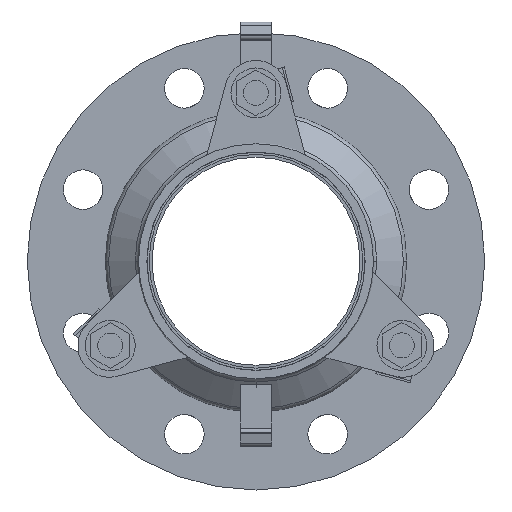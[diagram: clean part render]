
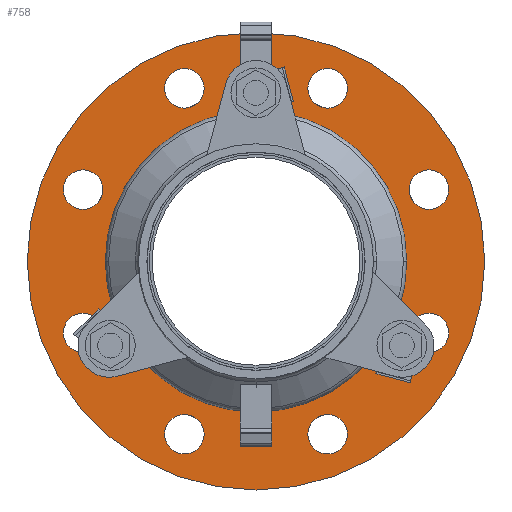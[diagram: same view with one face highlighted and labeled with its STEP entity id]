
A CAD part, left-side view. The second image highlights one B-rep face of the part: STEP entity #758.
In plain terms, the highlighted planar face has unit normal (-1, 0, 0).
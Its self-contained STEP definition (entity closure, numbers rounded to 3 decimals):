
#758=ADVANCED_FACE('',(#1582,#1583,#1584,#1585,#1586,#1587,#1588,#1589,#1590,#1591),#1592,.T.);
#1582=FACE_BOUND('',#2751,.T.);
#1583=FACE_BOUND('',#2752,.T.);
#1584=FACE_BOUND('',#2753,.T.);
#1585=FACE_BOUND('',#2754,.T.);
#1586=FACE_BOUND('',#2755,.T.);
#1587=FACE_BOUND('',#2756,.T.);
#1588=FACE_BOUND('',#2757,.T.);
#1589=FACE_BOUND('',#2758,.T.);
#1590=FACE_BOUND('',#2759,.T.);
#1591=FACE_OUTER_BOUND('',#2760,.T.);
#1592=PLANE('',#2761);
#2751=EDGE_LOOP('',(#3900,#3901));
#2752=EDGE_LOOP('',(#3902,#3903));
#2753=EDGE_LOOP('',(#3904,#3905));
#2754=EDGE_LOOP('',(#3906,#3907));
#2755=EDGE_LOOP('',(#3908,#3909));
#2756=EDGE_LOOP('',(#3910,#3911));
#2757=EDGE_LOOP('',(#3912,#3913));
#2758=EDGE_LOOP('',(#3914,#3915));
#2759=EDGE_LOOP('',(#3916,#3917));
#2760=EDGE_LOOP('',(#3918,#3919));
#2761=AXIS2_PLACEMENT_3D('',#3920,#3921,#3922);
#3900=ORIENTED_EDGE('',*,*,#6351,.T.);
#3901=ORIENTED_EDGE('',*,*,#6352,.T.);
#3902=ORIENTED_EDGE('',*,*,#6353,.T.);
#3903=ORIENTED_EDGE('',*,*,#6354,.T.);
#3904=ORIENTED_EDGE('',*,*,#6355,.T.);
#3905=ORIENTED_EDGE('',*,*,#6356,.T.);
#3906=ORIENTED_EDGE('',*,*,#6357,.T.);
#3907=ORIENTED_EDGE('',*,*,#6358,.T.);
#3908=ORIENTED_EDGE('',*,*,#6359,.T.);
#3909=ORIENTED_EDGE('',*,*,#6360,.T.);
#3910=ORIENTED_EDGE('',*,*,#6361,.T.);
#3911=ORIENTED_EDGE('',*,*,#6362,.T.);
#3912=ORIENTED_EDGE('',*,*,#6363,.T.);
#3913=ORIENTED_EDGE('',*,*,#6364,.T.);
#3914=ORIENTED_EDGE('',*,*,#6365,.T.);
#3915=ORIENTED_EDGE('',*,*,#6366,.T.);
#3916=ORIENTED_EDGE('',*,*,#6367,.T.);
#3917=ORIENTED_EDGE('',*,*,#6368,.T.);
#3918=ORIENTED_EDGE('',*,*,#6272,.F.);
#3919=ORIENTED_EDGE('',*,*,#6348,.F.);
#3920=CARTESIAN_POINT('',(-19.0,0.0,0.));
#3921=DIRECTION('',(-1.0,0.0,0.));
#3922=DIRECTION('',(0.,0.0,-1.0));
#6272=EDGE_CURVE('',#7360,#7362,#7363,.T.);
#6348=EDGE_CURVE('',#7362,#7360,#7488,.T.);
#6351=EDGE_CURVE('',#7491,#7492,#7493,.T.);
#6352=EDGE_CURVE('',#7492,#7491,#7494,.T.);
#6353=EDGE_CURVE('',#7495,#7496,#7497,.T.);
#6354=EDGE_CURVE('',#7496,#7495,#7498,.T.);
#6355=EDGE_CURVE('',#7499,#7500,#7501,.T.);
#6356=EDGE_CURVE('',#7500,#7499,#7502,.T.);
#6357=EDGE_CURVE('',#7503,#7504,#7505,.T.);
#6358=EDGE_CURVE('',#7504,#7503,#7506,.T.);
#6359=EDGE_CURVE('',#7507,#7508,#7509,.T.);
#6360=EDGE_CURVE('',#7508,#7507,#7510,.T.);
#6361=EDGE_CURVE('',#7511,#7512,#7513,.T.);
#6362=EDGE_CURVE('',#7512,#7511,#7514,.T.);
#6363=EDGE_CURVE('',#7515,#7516,#7517,.T.);
#6364=EDGE_CURVE('',#7516,#7515,#7518,.T.);
#6365=EDGE_CURVE('',#7519,#7520,#7521,.T.);
#6366=EDGE_CURVE('',#7520,#7519,#7522,.T.);
#6367=EDGE_CURVE('',#7523,#7524,#7525,.T.);
#6368=EDGE_CURVE('',#7524,#7523,#7526,.T.);
#7360=VERTEX_POINT('',#8876);
#7362=VERTEX_POINT('',#8879);
#7363=CIRCLE('',#8880,110.0);
#7488=CIRCLE('',#9044,110.0);
#7491=VERTEX_POINT('',#9047);
#7492=VERTEX_POINT('',#9048);
#7493=CIRCLE('',#9049,9.5);
#7494=CIRCLE('',#9050,9.5);
#7495=VERTEX_POINT('',#9051);
#7496=VERTEX_POINT('',#9052);
#7497=CIRCLE('',#9053,9.5);
#7498=CIRCLE('',#9054,9.5);
#7499=VERTEX_POINT('',#9055);
#7500=VERTEX_POINT('',#9056);
#7501=CIRCLE('',#9057,9.5);
#7502=CIRCLE('',#9058,9.5);
#7503=VERTEX_POINT('',#9059);
#7504=VERTEX_POINT('',#9060);
#7505=CIRCLE('',#9061,9.5);
#7506=CIRCLE('',#9062,9.5);
#7507=VERTEX_POINT('',#9063);
#7508=VERTEX_POINT('',#9064);
#7509=CIRCLE('',#9065,9.5);
#7510=CIRCLE('',#9066,9.5);
#7511=VERTEX_POINT('',#9067);
#7512=VERTEX_POINT('',#9068);
#7513=CIRCLE('',#9069,9.5);
#7514=CIRCLE('',#9070,9.5);
#7515=VERTEX_POINT('',#9071);
#7516=VERTEX_POINT('',#9072);
#7517=CIRCLE('',#9073,9.5);
#7518=CIRCLE('',#9074,9.5);
#7519=VERTEX_POINT('',#9075);
#7520=VERTEX_POINT('',#9076);
#7521=CIRCLE('',#9077,9.5);
#7522=CIRCLE('',#9078,9.5);
#7523=VERTEX_POINT('',#9079);
#7524=VERTEX_POINT('',#9080);
#7525=CIRCLE('',#9081,50.0);
#7526=CIRCLE('',#9082,50.0);
#8876=CARTESIAN_POINT('',(-19.0,0.0,-110.0));
#8879=CARTESIAN_POINT('',(-19.0,0.,110.0));
#8880=AXIS2_PLACEMENT_3D('',#10640,#10641,#10642);
#9044=AXIS2_PLACEMENT_3D('',#10733,#10734,#10735);
#9047=CARTESIAN_POINT('',(-19.0,-34.441,73.649));
#9048=CARTESIAN_POINT('',(-19.0,-34.441,92.649));
#9049=AXIS2_PLACEMENT_3D('',#10736,#10737,#10738);
#9050=AXIS2_PLACEMENT_3D('',#10739,#10740,#10741);
#9051=CARTESIAN_POINT('',(-19.0,34.441,73.649));
#9052=CARTESIAN_POINT('',(-19.0,34.441,92.649));
#9053=AXIS2_PLACEMENT_3D('',#10742,#10743,#10744);
#9054=AXIS2_PLACEMENT_3D('',#10745,#10746,#10747);
#9055=CARTESIAN_POINT('',(-19.0,83.149,24.941));
#9056=CARTESIAN_POINT('',(-19.0,83.149,43.941));
#9057=AXIS2_PLACEMENT_3D('',#10748,#10749,#10750);
#9058=AXIS2_PLACEMENT_3D('',#10751,#10752,#10753);
#9059=CARTESIAN_POINT('',(-19.0,83.149,-43.941));
#9060=CARTESIAN_POINT('',(-19.0,83.149,-24.941));
#9061=AXIS2_PLACEMENT_3D('',#10754,#10755,#10756);
#9062=AXIS2_PLACEMENT_3D('',#10757,#10758,#10759);
#9063=CARTESIAN_POINT('',(-19.0,34.441,-92.649));
#9064=CARTESIAN_POINT('',(-19.0,34.441,-73.649));
#9065=AXIS2_PLACEMENT_3D('',#10760,#10761,#10762);
#9066=AXIS2_PLACEMENT_3D('',#10763,#10764,#10765);
#9067=CARTESIAN_POINT('',(-19.0,-34.441,-92.649));
#9068=CARTESIAN_POINT('',(-19.0,-34.441,-73.649));
#9069=AXIS2_PLACEMENT_3D('',#10766,#10767,#10768);
#9070=AXIS2_PLACEMENT_3D('',#10769,#10770,#10771);
#9071=CARTESIAN_POINT('',(-19.0,-83.149,-43.941));
#9072=CARTESIAN_POINT('',(-19.0,-83.149,-24.941));
#9073=AXIS2_PLACEMENT_3D('',#10772,#10773,#10774);
#9074=AXIS2_PLACEMENT_3D('',#10775,#10776,#10777);
#9075=CARTESIAN_POINT('',(-19.0,-83.149,24.941));
#9076=CARTESIAN_POINT('',(-19.0,-83.149,43.941));
#9077=AXIS2_PLACEMENT_3D('',#10778,#10779,#10780);
#9078=AXIS2_PLACEMENT_3D('',#10781,#10782,#10783);
#9079=CARTESIAN_POINT('',(-19.0,0.0,-50.0));
#9080=CARTESIAN_POINT('',(-19.0,0.,50.0));
#9081=AXIS2_PLACEMENT_3D('',#10784,#10785,#10786);
#9082=AXIS2_PLACEMENT_3D('',#10787,#10788,#10789);
#10640=CARTESIAN_POINT('',(-19.0,0.0,0.));
#10641=DIRECTION('',(1.0,0.0,0.));
#10642=DIRECTION('',(0.,0.0,-1.0));
#10733=CARTESIAN_POINT('',(-19.0,0.0,0.));
#10734=DIRECTION('',(1.0,0.0,0.));
#10735=DIRECTION('',(0.,0.0,-1.0));
#10736=CARTESIAN_POINT('',(-19.0,-34.441,83.149));
#10737=DIRECTION('',(1.0,0.0,0.));
#10738=DIRECTION('',(0.,0.0,-1.0));
#10739=CARTESIAN_POINT('',(-19.0,-34.441,83.149));
#10740=DIRECTION('',(1.0,0.0,0.));
#10741=DIRECTION('',(0.,0.0,-1.0));
#10742=CARTESIAN_POINT('',(-19.0,34.441,83.149));
#10743=DIRECTION('',(1.0,0.0,0.));
#10744=DIRECTION('',(0.,0.0,-1.0));
#10745=CARTESIAN_POINT('',(-19.0,34.441,83.149));
#10746=DIRECTION('',(1.0,0.0,0.));
#10747=DIRECTION('',(0.,0.0,-1.0));
#10748=CARTESIAN_POINT('',(-19.0,83.149,34.441));
#10749=DIRECTION('',(1.0,0.0,0.));
#10750=DIRECTION('',(0.,0.0,-1.0));
#10751=CARTESIAN_POINT('',(-19.0,83.149,34.441));
#10752=DIRECTION('',(1.0,0.0,0.));
#10753=DIRECTION('',(0.,0.0,-1.0));
#10754=CARTESIAN_POINT('',(-19.0,83.149,-34.441));
#10755=DIRECTION('',(1.0,0.0,0.));
#10756=DIRECTION('',(0.,0.0,-1.0));
#10757=CARTESIAN_POINT('',(-19.0,83.149,-34.441));
#10758=DIRECTION('',(1.0,0.0,0.));
#10759=DIRECTION('',(0.,0.0,-1.0));
#10760=CARTESIAN_POINT('',(-19.0,34.441,-83.149));
#10761=DIRECTION('',(1.0,0.0,0.));
#10762=DIRECTION('',(0.,0.0,-1.0));
#10763=CARTESIAN_POINT('',(-19.0,34.441,-83.149));
#10764=DIRECTION('',(1.0,0.0,0.));
#10765=DIRECTION('',(0.,0.0,-1.0));
#10766=CARTESIAN_POINT('',(-19.0,-34.441,-83.149));
#10767=DIRECTION('',(1.0,0.0,0.));
#10768=DIRECTION('',(0.,0.0,-1.0));
#10769=CARTESIAN_POINT('',(-19.0,-34.441,-83.149));
#10770=DIRECTION('',(1.0,0.0,0.));
#10771=DIRECTION('',(0.,0.0,-1.0));
#10772=CARTESIAN_POINT('',(-19.0,-83.149,-34.441));
#10773=DIRECTION('',(1.0,0.0,0.));
#10774=DIRECTION('',(0.,0.0,-1.0));
#10775=CARTESIAN_POINT('',(-19.0,-83.149,-34.441));
#10776=DIRECTION('',(1.0,0.0,0.));
#10777=DIRECTION('',(0.,0.0,-1.0));
#10778=CARTESIAN_POINT('',(-19.0,-83.149,34.441));
#10779=DIRECTION('',(1.0,0.0,0.));
#10780=DIRECTION('',(0.,0.0,-1.0));
#10781=CARTESIAN_POINT('',(-19.0,-83.149,34.441));
#10782=DIRECTION('',(1.0,0.0,0.));
#10783=DIRECTION('',(0.,0.0,-1.0));
#10784=CARTESIAN_POINT('',(-19.0,0.0,0.));
#10785=DIRECTION('',(1.0,0.0,0.));
#10786=DIRECTION('',(0.,0.0,-1.0));
#10787=CARTESIAN_POINT('',(-19.0,0.0,0.));
#10788=DIRECTION('',(1.0,0.0,0.));
#10789=DIRECTION('',(0.,0.0,-1.0));
